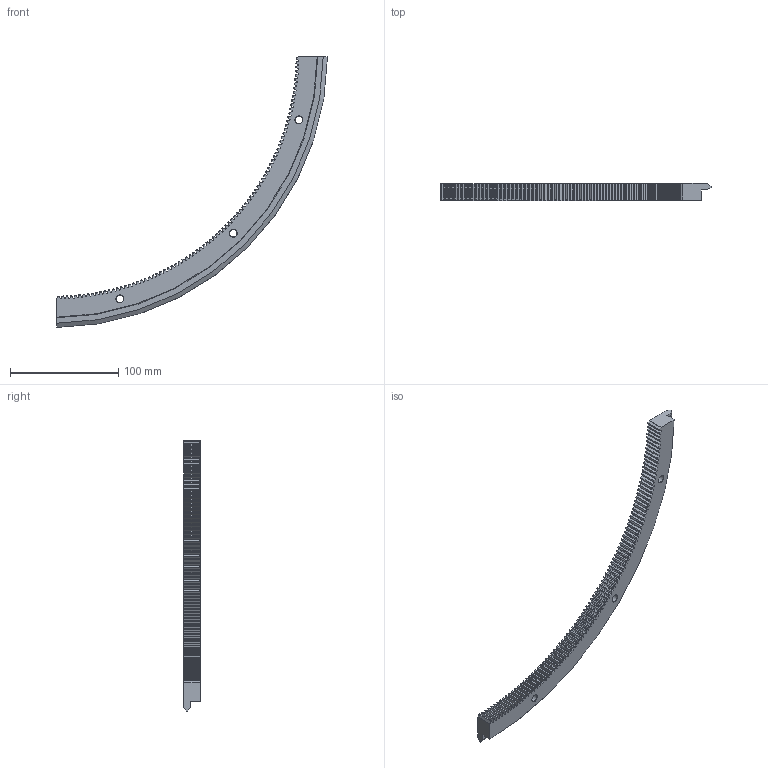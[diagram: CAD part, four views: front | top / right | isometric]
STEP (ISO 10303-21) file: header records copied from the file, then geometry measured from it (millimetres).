
FILE_DESCRIPTION( ( 'STEP AP203' ), '1' );
FILE_NAME( 'p:/temp/worker_45/temp/exporttempdir_3164_140_LqTul/format_0/REM 505 R90 Q.stp', '2021-08-30T05:10:29', ( 'License CC BY-ND 4.0' ), ( 'CADENAS' ), ' ', 'PARTsolutions', ' ' );
FILE_SCHEMA( ( 'CONFIG_CONTROL_DESIGN' ) );
Length unit declared in the file: millimetre
Products named in the file (1): _REM 505 R90 Q
Bounding box: 250.74 x 15.5 x 250.74 mm (x, y, z)
Volume: 119712.9 mm3; surface area: 37325 mm2
Topology: 1 solids, 1 shells, 470 faces, 1392 edges, 927 vertices
Faces by surface type: plane 187, cylinder 187, cone 95, torus 1
Full cylindrical faces by diameter (mm): 6.8 x3, 11 x3
Entity records: 16051 total; most frequent: CARTESIAN_POINT 3350, ORIENTED_EDGE 2766, DIRECTION 2610, EDGE_CURVE 1383, AXIS2_PLACEMENT_3D 942, VERTEX_POINT 927, LINE 726, VECTOR 726
